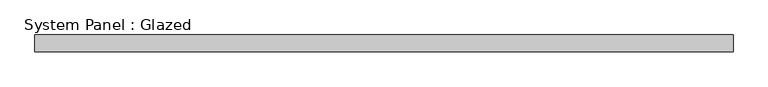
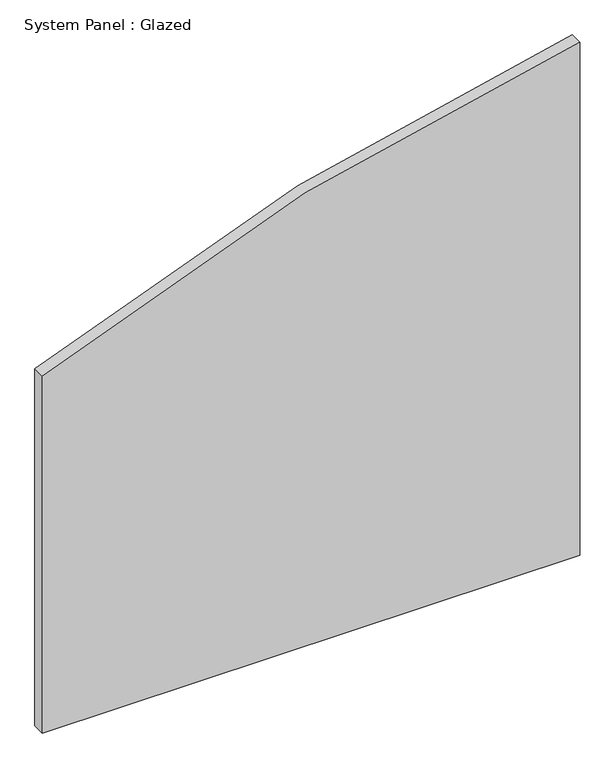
"""IFC4 building model written with IfcOpenShell, lengths in millimetres: plate geometry, System Panel : Glazed."""

from ifc_helpers import new_model, si_unit, point, frame, frame_2d, origin, place, context, project, spatial, polyline, circle_curve, trimmed, segment, composite_curve, outline, extrude, source, transform, mapped, element, save


def system_panel_glazed_74ab0a48(model_context):
    return source(origin(), model_context, "Body", "SweptSolid", [
        extrude(outline(composite_curve([segment(polyline([(0.0, -534.3071428), (0.0, 534.3071428), (1077.8474032, 534.3071428)]), True, "CONTINUOUS"), segment(trimmed(circle_curve(frame_2d((-2774.95, 1132.1142856)), 3898.9), [point((1077.8474032, 534.3071428))], [point((749.884866, -534.3071428))], False, "CARTESIAN"), True, "CONTINUOUS"), segment(polyline([(749.884866, -534.3071428), (0.0, -534.3071428)]), True, "CONTINUOUS")], self_intersect=False)), frame((0.0, -44.45, 0.0), z_axis=(0.0, 1.0, 0.0), x_axis=(0.0, 0.0, 1.0)), (0.0, 0.0, 1.0), 25.4),
    ])


if __name__ == "__main__":
    model = new_model("IFC4")
    model_context = context("Model", 3, world=origin())
    ifc_project = project(units=[si_unit("LENGTHUNIT", "METRE", prefix="MILLI")], contexts=[model_context])
    site = spatial("IfcSite", under=ifc_project)
    building = spatial("IfcBuilding", under=site)
    placement = place(None, origin())
    system_panel_glazed_shape = system_panel_glazed_74ab0a48(model_context)
    element("IfcPlate", 1, ObjectType="System Panel : Glazed", at=placement, inside=building, context=model_context, shape_type="MappedRepresentation", body=[
        mapped(system_panel_glazed_shape, transform((0.0, 0.0, 0.0), x_axis=(1.0, 0.0, 0.0), y_axis=(0.0, 1.0, 0.0), z_axis=(0.0, 0.0, 1.0))),
    ])
    save(model, "model.ifc")
